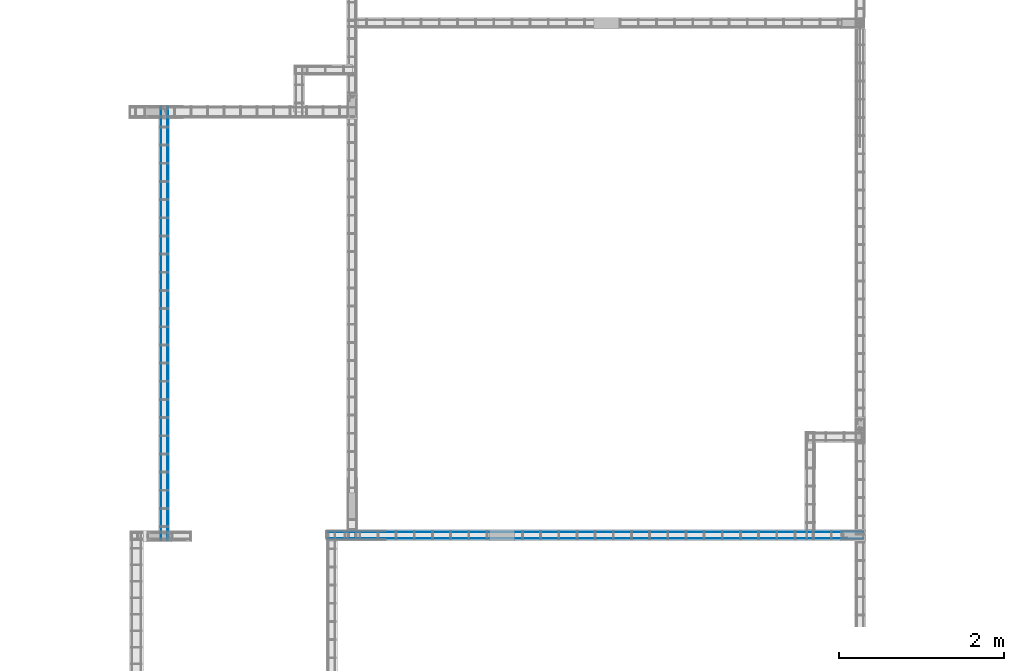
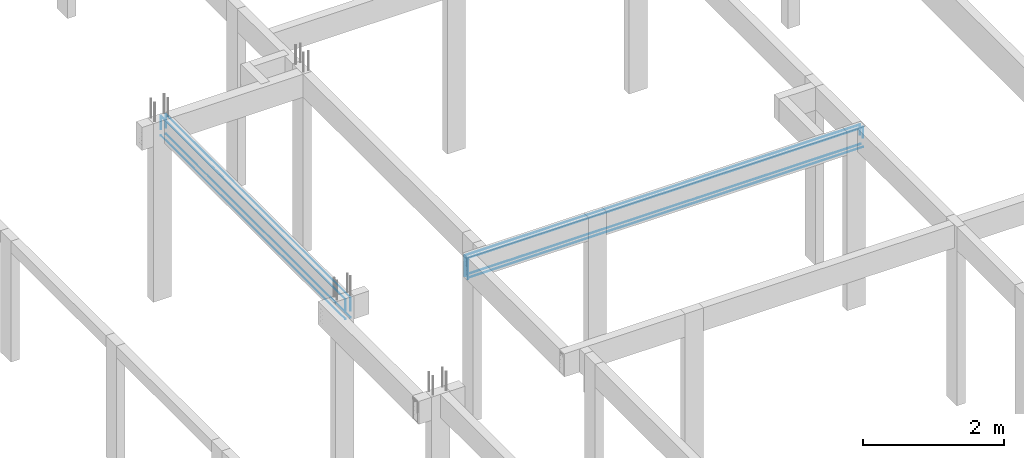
# One storey, part 24 of 236: 8 reinforcing bars.
"""IFC4 building model written with IfcOpenShell, lengths in centimetres."""

import ifcopenshell
import ifcopenshell.guid

model = None  # the IFC model being written
_history = None  # IfcOwnerHistory: only IFC2X3 demands one
_inside = {}  # id of a spatial element -> (the spatial element, [elements in it])
_under = {}  # id of a project, library or spatial element -> (it, [spatial elements below it])
_declared = {}  # id of a project -> (the project, [libraries it declares])
_typed = {}  # id of a type object -> (the type object, [elements of that type])
_made_of = {}  # id of a material, layer set ... -> (it, [elements and type objects made of it])


def new_model(schema):
    """Start an empty IFC model of exactly this schema.

    Asked for "IFC4X3", IfcOpenShell would pick the latest addendum, in which some entities
    have other attributes; the version numbers below select the first issue.
    IFC2X3 requires an IfcOwnerHistory on every rooted entity: one is made here for all.
    """
    global model, _history
    if schema == "IFC4X3":
        model = ifcopenshell.file(schema_version=(4, 3, 0, 0))
    else:
        model = ifcopenshell.file(schema=schema)
    _inside.clear()
    _under.clear()
    _declared.clear()
    _typed.clear()
    _made_of.clear()
    _history = None
    if model.schema == "IFC2X3":
        org = make("IfcOrganization", Name="unknown")
        user = make(
            "IfcPersonAndOrganization",
            ThePerson=make("IfcPerson", FamilyName="unknown"),
            TheOrganization=org,
        )
        app = make(
            "IfcApplication",
            ApplicationDeveloper=org,
            Version="unknown",
            ApplicationFullName="unknown",
            ApplicationIdentifier="unknown",
        )
        _history = make(
            "IfcOwnerHistory",
            OwningUser=user,
            OwningApplication=app,
            ChangeAction="ADDED",
            CreationDate=0,
        )
    return model


def make(cls, **values):
    """One entity of the class cls with the attributes given. An attribute that is None is left unset."""
    return model.create_entity(
        cls, **{name: value for name, value in values.items() if value is not None}
    )


def entity(cls, *values):
    """Any entity or typed value of the class cls, its attributes in the order of the schema. None: left unset."""
    e = model.create_entity(cls)
    for i, value in enumerate(values):
        if value is not None:
            e[i] = value
    return e


def rooted(cls, **values):
    """An entity with a GlobalId (a new one), such as an element, a storey or a relation."""
    return make(cls, GlobalId=ifcopenshell.guid.new(), OwnerHistory=_history, **values)


def si_unit(unit_type, name, prefix=None):
    """IfcSIUnit, for example si_unit("LENGTHUNIT", "METRE", prefix="MILLI")."""
    return make("IfcSIUnit", UnitType=unit_type, Prefix=prefix, Name=name)


def derived_unit(unit_type, elements):
    """IfcDerivedUnit: a product of units, each with its exponent."""
    return make(
        "IfcDerivedUnit",
        Elements=[
            make("IfcDerivedUnitElement", Unit=unit, Exponent=power)
            for unit, power in elements
        ],
        UnitType=unit_type,
    )


def assignment(units):
    """IfcUnitAssignment: the units of a project."""
    return None if units is None else make("IfcUnitAssignment", Units=units)


def point(xyz):
    """IfcCartesianPoint."""
    return None if xyz is None else make("IfcCartesianPoint", Coordinates=xyz)


def direction(xyz):
    """IfcDirection."""
    return None if xyz is None else make("IfcDirection", DirectionRatios=xyz)


def frame(location, z_axis=None, x_axis=None):
    """IfcAxis2Placement3D, a coordinate frame: its origin and axes. An axis left out is left unset."""
    return make(
        "IfcAxis2Placement3D",
        Location=point(location),
        Axis=direction(z_axis),
        RefDirection=direction(x_axis),
    )


def origin_with_axes():
    """The frame at (0, 0, 0) with the z axis (0, 0, 1) and the x axis (1, 0, 0) written out."""
    return frame((0.0, 0.0, 0.0), z_axis=(0.0, 0.0, 1.0), x_axis=(1.0, 0.0, 0.0))


def place(relative_to, where):
    """IfcLocalPlacement: puts the frame where relative to a parent placement (None: the world)."""
    return make(
        "IfcLocalPlacement", PlacementRelTo=relative_to, RelativePlacement=where
    )


def context(
    kind, dimensions, precision=None, world=None, true_north=None, identifier=None
):
    """IfcGeometricRepresentationContext, for example the 3D "Model" context."""
    return make(
        "IfcGeometricRepresentationContext",
        ContextIdentifier=identifier,
        ContextType=kind,
        CoordinateSpaceDimension=dimensions,
        Precision=precision,
        WorldCoordinateSystem=world,
        TrueNorth=true_north,
    )


def project(units=None, contexts=None):
    """IfcProject with its units and contexts."""
    return rooted(
        "IfcProject",
        Name="project",
        RepresentationContexts=contexts,
        UnitsInContext=assignment(units),
    )


def spatial(cls, under=None, at=None, **own):
    """A site, building, storey or space (cls), placed at a placement, below another one or the project."""
    s = rooted(cls, ObjectPlacement=at, **own)
    if under is not None:
        _under.setdefault(under.id(), (under, []))[1].append(s)
    return s


def shape(context_of_items, identifier, shape_type, items):
    """IfcShapeRepresentation: the items that make up one representation, for example the "Body"."""
    return make(
        "IfcShapeRepresentation",
        ContextOfItems=context_of_items,
        RepresentationIdentifier=identifier,
        RepresentationType=shape_type,
        Items=items,
    )


def made_of(thing, what):
    """Note that an element or type object is made of a material, layer set ...; save() writes the relation."""
    if what is not None:
        _made_of.setdefault(what.id(), (what, []))[1].append(thing)
    return thing


def element(
    cls,
    number,
    at=None,
    inside=None,
    cuts=None,
    type_object=None,
    material=None,
    context=None,
    identifier="Body",
    shape_type=None,
    held_by="IfcProductDefinitionShape",
    body=None,
    shapes=None,
    **own,
):
    """One element of the class cls, such as IfcWall. Its Tag is "e" and its number.

    at: its placement. inside: the storey or other place that contains it. cuts: it is an
    opening in that element (IfcRelVoidsElement). A single representation is given by context,
    identifier, shape_type and body (its items); several are given by shapes. held_by: the class
    of the entity that holds the representations. save() writes the other relations.
    """
    e = rooted(cls, Tag="e%d" % number, ObjectPlacement=at, **own)
    if body is not None:
        shapes = [shape(context, identifier, shape_type, body)]
    if shapes is not None:
        e.Representation = make(held_by, Representations=shapes)
    if inside is not None:
        _inside.setdefault(inside.id(), (inside, []))[1].append(e)
    if cuts is not None:
        rooted(
            "IfcRelVoidsElement", RelatingBuildingElement=cuts, RelatedOpeningElement=e
        )
    if type_object is not None:
        _typed.setdefault(type_object.id(), (type_object, []))[1].append(e)
    return made_of(e, material)


def aggregate(whole, parts):
    """IfcRelAggregates: a whole, such as a stair, and the parts it consists of."""
    return rooted("IfcRelAggregates", RelatingObject=whole, RelatedObjects=parts)


def save(model, path):
    """Write the relations noted so far, then the file.

    IfcRelAggregates (storeys below a building ...), IfcRelContainedInSpatialStructure (elements
    in a storey), IfcRelDefinesByType, IfcRelAssociatesMaterial and IfcRelDeclares: one each for
    every whole, place, type object, material and project.
    """
    for whole, parts in _under.values():
        aggregate(whole, parts)
    for where, things in _inside.values():
        rooted(
            "IfcRelContainedInSpatialStructure",
            RelatedElements=things,
            RelatingStructure=where,
        )
    for kind, things in _typed.values():
        rooted("IfcRelDefinesByType", RelatedObjects=things, RelatingType=kind)
    for what, things in _made_of.values():
        rooted("IfcRelAssociatesMaterial", RelatedObjects=things, RelatingMaterial=what)
    for by, libraries in _declared.values():
        rooted("IfcRelDeclares", RelatingContext=by, RelatedDefinitions=libraries)
    model.write(path)


model = new_model("IFC4")

# Units and contexts
model_context = context("Model", 3, precision=1e-05, world=origin_with_axes(), identifier="Body")
ifc_project = project(units=[si_unit("LENGTHUNIT", "METRE", prefix="CENTI"), si_unit("VOLUMEUNIT", "CUBIC_METRE"), si_unit("AREAUNIT", "SQUARE_METRE"), si_unit("POWERUNIT", "WATT"), si_unit("LUMINOUSFLUXUNIT", "LUMEN"), si_unit("ELECTRICCURRENTUNIT", "AMPERE"), si_unit("PRESSUREUNIT", "PASCAL", prefix="KILO"), si_unit("MASSUNIT", "GRAM", prefix="KILO"), si_unit("PLANEANGLEUNIT", "RADIAN"), derived_unit("VOLUMETRICFLOWRATEUNIT", [(si_unit("LENGTHUNIT", "METRE"), 3), (si_unit("TIMEUNIT", "SECOND"), -1)])], contexts=[model_context])

# Site, building, storey
site_placement = place(None, frame((-4000.0, 0.0, 0.0), z_axis=(0.0, 0.0, 1.0), x_axis=(1.0, 0.0, 0.0)))
site = spatial("IfcSite", under=ifc_project, at=site_placement, Name="PADRÃO")
building_placement = place(site_placement, frame((0.0, 0.0, -14.0)))
building = spatial("IfcBuilding", under=site, at=building_placement, Name="CRECHE PRÉ-ESCOLA TIPO 2")
placement_1 = place(building_placement, origin_with_axes())
placement_2 = place(placement_1, frame((0.0, 0.0, 30.0), z_axis=(0.0, 0.0, 1.0), x_axis=(1.0, 0.0, 0.0)))
storey_placement = place(placement_2, frame((0.0, 0.0, 310.0), z_axis=(0.0, 0.0, 1.0), x_axis=(1.0, 0.0, 0.0)))
storey = spatial("IfcBuildingStorey", under=building, at=storey_placement, Name="TERREO", CompositionType="ELEMENT", Elevation=326.0)

# Reinforcing bars
for number, where, z_axis, x_axis, name in (
    (1, (798.203124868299, 1298.4, -14.8022873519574), (0.0, 0.0, 1.0), (1.0, 0.0, 0.0), "V242 - Longitudinal inferior"),
    (2, (798.203124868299, 1306.6, -14.8022873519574), (0.0, 0.0, 1.0), (1.0, 0.0, 0.0), "V242 - Longitudinal inferior"),
):
    element("IfcReinforcingBar", number, at=place(storey_placement, frame(where, z_axis=z_axis, x_axis=x_axis)), inside=storey, Name=name, BarLength=0.0, CrossSectionArea=5.0265482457e-05, NominalDiameter=0.8, PredefinedType="MAIN", context=model_context, shape_type="AdvancedSweptSolid", body=[
        entity("IfcSweptDiskSolid", entity("IfcCompositeCurve", [entity("IfcCompositeCurveSegment", "CONTINUOUS", True, entity("IfcPolyline", [entity("IfcCartesianPoint", [-324.1131248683, 0.0, 0.0]), entity("IfcCartesianPoint", [-324.1131248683, 0.0, -22.2977126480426])])), entity("IfcCompositeCurveSegment", "CONTINUOUS", True, entity("IfcPolyline", [entity("IfcCartesianPoint", [-324.1131248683, 0.0, -22.2977126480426]), entity("IfcCartesianPoint", [324.516875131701, 0.0, -22.2977126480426])]))], False), 0.4),
    ])
for number, where, z_axis, x_axis, name in (
    (3, (798.205, 1298.5, -2.49531217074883), (0.0, 0.0, 1.0), (1.0, 0.0, 0.0), "V242 - Longitudinal superior"),
    (4, (798.205, 1306.5, -2.49531217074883), (0.0, 0.0, 1.0), (1.0, 0.0, 0.0), "V242 - Longitudinal superior"),
):
    element("IfcReinforcingBar", number, at=place(storey_placement, frame(where, z_axis=z_axis, x_axis=x_axis)), inside=storey, Name=name, BarLength=0.0, CrossSectionArea=7.853981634e-05, NominalDiameter=1.0, PredefinedType="MAIN", context=model_context, shape_type="AdvancedSweptSolid", body=[
        entity("IfcSweptDiskSolid", entity("IfcCompositeCurve", [entity("IfcCompositeCurveSegment", "CONTINUOUS", True, entity("IfcPolyline", [entity("IfcCartesianPoint", [-324.015, 0.0, -36.5046878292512]), entity("IfcCartesianPoint", [-324.015, 0.0, -0.504687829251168])])), entity("IfcCompositeCurveSegment", "CONTINUOUS", True, entity("IfcPolyline", [entity("IfcCartesianPoint", [-324.015, 0.0, -0.504687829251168]), entity("IfcCartesianPoint", [324.015, 0.0, -0.504687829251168])])), entity("IfcCompositeCurveSegment", "CONTINUOUS", True, entity("IfcPolyline", [entity("IfcCartesianPoint", [324.015, 0.0, -0.504687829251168]), entity("IfcCartesianPoint", [324.015, 0.0, -18.3428579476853])]))], False), 0.5),
    ])
for number, where, z_axis, x_axis, name in (
    (5, (280.1, 1559.0, -36.7), (0.0, 0.0, 1.0), (1.0, 0.0, 0.0), "V261 - Longitudinal inferior"),
    (6, (271.9, 1559.0, -36.7), (0.0, 0.0, 1.0), (1.0, 0.0, 0.0), "V261 - Longitudinal inferior"),
):
    element("IfcReinforcingBar", number, at=place(storey_placement, frame(where, z_axis=z_axis, x_axis=x_axis)), inside=storey, Name=name, BarLength=0.0, CrossSectionArea=5.0265482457e-05, NominalDiameter=0.8, PredefinedType="MAIN", context=model_context, shape_type="AdvancedSweptSolid", body=[
        entity("IfcSweptDiskSolid", entity("IfcCompositeCurve", [entity("IfcCompositeCurveSegment", "CONTINUOUS", True, entity("IfcPolyline", [entity("IfcCartesianPoint", [0.0, -262.5, -0.4]), entity("IfcCartesianPoint", [0.0, 262.5, -0.4])]))], False), 0.4),
    ])
for number, where, z_axis, x_axis, name in (
    (7, (280.1, 1559.0, -2.49624973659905), (0.0, 0.0, 1.0), (1.0, 0.0, 0.0), "V261 - Longitudinal superior"),
    (8, (271.9, 1559.0, -2.49624973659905), (0.0, 0.0, 1.0), (1.0, 0.0, 0.0), "V261 - Longitudinal superior"),
):
    element("IfcReinforcingBar", number, at=place(storey_placement, frame(where, z_axis=z_axis, x_axis=x_axis)), inside=storey, Name=name, BarLength=0.0, CrossSectionArea=5.0265482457e-05, NominalDiameter=0.8, PredefinedType="MAIN", context=model_context, shape_type="AdvancedSweptSolid", body=[
        entity("IfcSweptDiskSolid", entity("IfcCompositeCurve", [entity("IfcCompositeCurveSegment", "CONTINUOUS", True, entity("IfcPolyline", [entity("IfcCartesianPoint", [0.0, -262.1, -22.7014629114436]), entity("IfcCartesianPoint", [0.0, -262.1, -0.403750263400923])])), entity("IfcCompositeCurveSegment", "CONTINUOUS", True, entity("IfcPolyline", [entity("IfcCartesianPoint", [0.0, -262.1, -0.403750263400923]), entity("IfcCartesianPoint", [0.0, 262.1, -0.403750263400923])])), entity("IfcCompositeCurveSegment", "CONTINUOUS", True, entity("IfcPolyline", [entity("IfcCartesianPoint", [0.0, 262.1, -0.403750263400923]), entity("IfcCartesianPoint", [0.0, 262.1, -22.7014629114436])]))], False), 0.4),
    ])

save(model, "model.ifc")
